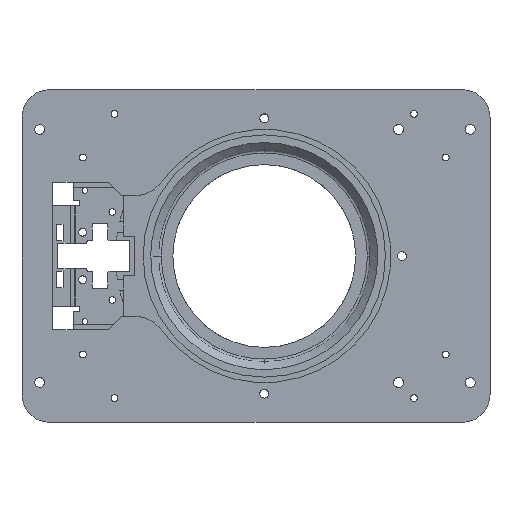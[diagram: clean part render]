
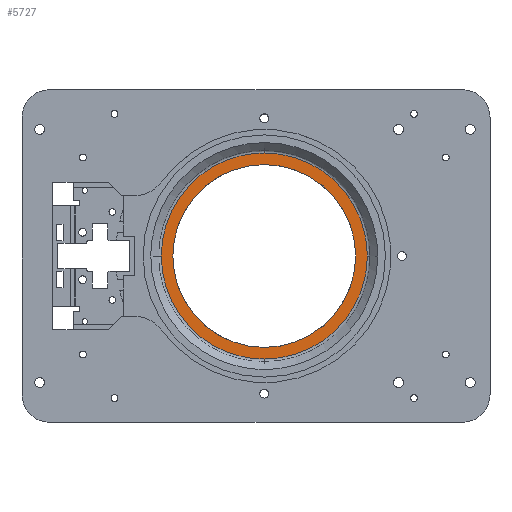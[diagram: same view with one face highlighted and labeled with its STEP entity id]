
A CAD part, top view. The second image highlights one B-rep face of the part: STEP entity #5727.
In plain terms, the highlighted planar face has unit normal (0, 0, 1).
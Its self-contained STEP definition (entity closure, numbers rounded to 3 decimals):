
#5261=DIRECTION('Axis2P3D Direction',(0.,-0.,-1.)) ;
#5270=DIRECTION('Axis2P3D Direction',(0.,-0.,-1.)) ;
#5301=DIRECTION('Axis2P3D Direction',(0.,-0.,-1.)) ;
#5308=DIRECTION('Axis2P3D Direction',(0.,-0.,-1.)) ;
#5638=DIRECTION('Axis2P3D Direction',(0.,-0.,-1.)) ;
#5639=DIRECTION('Axis2P3D XDirection',(1.,0.,0.)) ;
#5260=CARTESIAN_POINT('Axis2P3D Location',(1114.,-720.,99.5)) ;
#5264=CARTESIAN_POINT('Vertex',(1114.,-803.,99.5)) ;
#5266=CARTESIAN_POINT('Vertex',(1197.,-720.,99.5)) ;
#5269=CARTESIAN_POINT('Axis2P3D Location',(1114.,-720.,99.5)) ;
#5273=CARTESIAN_POINT('Vertex',(1114.,-637.,99.5)) ;
#5300=CARTESIAN_POINT('Axis2P3D Location',(1114.,-720.,99.5)) ;
#5304=CARTESIAN_POINT('Vertex',(1031.,-720.,99.5)) ;
#5307=CARTESIAN_POINT('Axis2P3D Location',(1114.,-720.,99.5)) ;
#5598=CARTESIAN_POINT('Vertex',(1020.45,-720.,99.5)) ;
#5602=CARTESIAN_POINT('Control Point',(1020.45,-720.,99.5)) ;
#5603=CARTESIAN_POINT('Control Point',(1020.45,-715.53,99.5)) ;
#5604=CARTESIAN_POINT('Control Point',(1020.717,-711.06,99.5)) ;
#5605=CARTESIAN_POINT('Control Point',(1021.251,-706.612,99.5)) ;
#5606=CARTESIAN_POINT('Control Point',(1023.646,-693.39,99.5)) ;
#5607=CARTESIAN_POINT('Control Point',(1028.375,-680.742,99.5)) ;
#5608=CARTESIAN_POINT('Control Point',(1032.525,-672.73,99.5)) ;
#5609=CARTESIAN_POINT('Control Point',(1042.658,-657.849,99.5)) ;
#5610=CARTESIAN_POINT('Control Point',(1056.007,-645.775,99.5)) ;
#5611=CARTESIAN_POINT('Control Point',(1063.376,-640.565,99.5)) ;
#5612=CARTESIAN_POINT('Control Point',(1077.434,-632.97,99.5)) ;
#5613=CARTESIAN_POINT('Control Point',(1092.736,-628.502,99.5)) ;
#5614=CARTESIAN_POINT('Control Point',(1099.578,-627.177,99.5)) ;
#5615=CARTESIAN_POINT('Control Point',(1106.617,-626.482,99.5)) ;
#5616=CARTESIAN_POINT('Control Point',(1113.661,-626.45,99.5)) ;
#5617=CARTESIAN_POINT('Control Point',(1113.774,-626.45,99.5)) ;
#5618=CARTESIAN_POINT('Control Point',(1113.887,-626.45,99.5)) ;
#5619=CARTESIAN_POINT('Control Point',(1114.,-626.45,99.5)) ;
#5620=CARTESIAN_POINT('Vertex',(1114.,-626.45,99.5)) ;
#5637=CARTESIAN_POINT('Axis2P3D Location',(1114.,-617.,99.5)) ;
#5643=CARTESIAN_POINT('Control Point',(1114.,-626.45,99.5)) ;
#5644=CARTESIAN_POINT('Control Point',(1115.202,-626.45,99.5)) ;
#5645=CARTESIAN_POINT('Control Point',(1116.403,-626.469,99.5)) ;
#5646=CARTESIAN_POINT('Control Point',(1117.606,-626.508,99.5)) ;
#5647=CARTESIAN_POINT('Control Point',(1120.008,-626.624,99.5)) ;
#5648=CARTESIAN_POINT('Control Point',(1122.405,-626.816,99.5)) ;
#5649=CARTESIAN_POINT('Control Point',(1123.602,-626.932,99.5)) ;
#5650=CARTESIAN_POINT('Control Point',(1127.185,-627.337,99.5)) ;
#5651=CARTESIAN_POINT('Control Point',(1130.747,-627.914,99.5)) ;
#5652=CARTESIAN_POINT('Control Point',(1133.108,-628.374,99.5)) ;
#5653=CARTESIAN_POINT('Control Point',(1140.14,-629.983,99.5)) ;
#5654=CARTESIAN_POINT('Control Point',(1146.994,-632.263,99.5)) ;
#5655=CARTESIAN_POINT('Control Point',(1151.459,-634.074,99.5)) ;
#5656=CARTESIAN_POINT('Control Point',(1163.865,-640.062,99.5)) ;
#5657=CARTESIAN_POINT('Control Point',(1175.026,-648.247,99.5)) ;
#5658=CARTESIAN_POINT('Control Point',(1181.612,-654.417,99.5)) ;
#5659=CARTESIAN_POINT('Control Point',(1194.409,-669.667,99.5)) ;
#5660=CARTESIAN_POINT('Control Point',(1202.839,-687.783,99.5)) ;
#5661=CARTESIAN_POINT('Control Point',(1205.98,-698.315,99.5)) ;
#5662=CARTESIAN_POINT('Control Point',(1207.55,-709.158,99.5)) ;
#5663=CARTESIAN_POINT('Control Point',(1207.55,-720.,99.5)) ;
#5664=CARTESIAN_POINT('Vertex',(1207.55,-720.,99.5)) ;
#5668=CARTESIAN_POINT('Control Point',(1020.45,-720.,99.5)) ;
#5669=CARTESIAN_POINT('Control Point',(1020.45,-733.416,99.5)) ;
#5670=CARTESIAN_POINT('Control Point',(1022.855,-746.832,99.5)) ;
#5671=CARTESIAN_POINT('Control Point',(1027.665,-759.662,99.5)) ;
#5672=CARTESIAN_POINT('Control Point',(1039.323,-779.135,99.5)) ;
#5673=CARTESIAN_POINT('Control Point',(1056.007,-794.225,99.5)) ;
#5674=CARTESIAN_POINT('Control Point',(1063.376,-799.435,99.5)) ;
#5675=CARTESIAN_POINT('Control Point',(1074.416,-805.4,99.5)) ;
#5676=CARTESIAN_POINT('Control Point',(1086.223,-809.436,99.5)) ;
#5677=CARTESIAN_POINT('Control Point',(1089.609,-810.418,99.5)) ;
#5678=CARTESIAN_POINT('Control Point',(1094.751,-811.65,99.5)) ;
#5679=CARTESIAN_POINT('Control Point',(1099.962,-812.516,99.5)) ;
#5680=CARTESIAN_POINT('Control Point',(1101.706,-812.764,99.5)) ;
#5681=CARTESIAN_POINT('Control Point',(1104.33,-813.074,99.5)) ;
#5682=CARTESIAN_POINT('Control Point',(1106.962,-813.291,99.5)) ;
#5683=CARTESIAN_POINT('Control Point',(1107.841,-813.354,99.5)) ;
#5684=CARTESIAN_POINT('Control Point',(1109.599,-813.457,99.5)) ;
#5685=CARTESIAN_POINT('Control Point',(1111.359,-813.519,99.5)) ;
#5686=CARTESIAN_POINT('Control Point',(1112.24,-813.54,99.5)) ;
#5687=CARTESIAN_POINT('Control Point',(1113.119,-813.55,99.5)) ;
#5688=CARTESIAN_POINT('Control Point',(1114.,-813.55,99.5)) ;
#5689=CARTESIAN_POINT('Vertex',(1114.,-813.55,99.5)) ;
#5693=CARTESIAN_POINT('Control Point',(1114.,-813.55,99.5)) ;
#5694=CARTESIAN_POINT('Control Point',(1115.202,-813.55,99.5)) ;
#5695=CARTESIAN_POINT('Control Point',(1116.403,-813.531,99.5)) ;
#5696=CARTESIAN_POINT('Control Point',(1117.606,-813.492,99.5)) ;
#5697=CARTESIAN_POINT('Control Point',(1120.008,-813.376,99.5)) ;
#5698=CARTESIAN_POINT('Control Point',(1122.405,-813.184,99.5)) ;
#5699=CARTESIAN_POINT('Control Point',(1123.602,-813.068,99.5)) ;
#5700=CARTESIAN_POINT('Control Point',(1127.185,-812.663,99.5)) ;
#5701=CARTESIAN_POINT('Control Point',(1130.747,-812.086,99.5)) ;
#5702=CARTESIAN_POINT('Control Point',(1133.108,-811.626,99.5)) ;
#5703=CARTESIAN_POINT('Control Point',(1140.14,-810.017,99.5)) ;
#5704=CARTESIAN_POINT('Control Point',(1146.994,-807.737,99.5)) ;
#5705=CARTESIAN_POINT('Control Point',(1151.459,-805.926,99.5)) ;
#5706=CARTESIAN_POINT('Control Point',(1163.865,-799.938,99.5)) ;
#5707=CARTESIAN_POINT('Control Point',(1175.026,-791.753,99.5)) ;
#5708=CARTESIAN_POINT('Control Point',(1181.612,-785.583,99.5)) ;
#5709=CARTESIAN_POINT('Control Point',(1194.409,-770.333,99.5)) ;
#5710=CARTESIAN_POINT('Control Point',(1202.839,-752.217,99.5)) ;
#5711=CARTESIAN_POINT('Control Point',(1205.98,-741.685,99.5)) ;
#5712=CARTESIAN_POINT('Control Point',(1207.55,-730.842,99.5)) ;
#5713=CARTESIAN_POINT('Control Point',(1207.55,-720.,99.5)) ;
#5262=AXIS2_PLACEMENT_3D('Circle Axis2P3D',#5260,#5261,$) ;
#5271=AXIS2_PLACEMENT_3D('Circle Axis2P3D',#5269,#5270,$) ;
#5302=AXIS2_PLACEMENT_3D('Circle Axis2P3D',#5300,#5301,$) ;
#5309=AXIS2_PLACEMENT_3D('Circle Axis2P3D',#5307,#5308,$) ;
#5640=AXIS2_PLACEMENT_3D('Plane Axis2P3D',#5637,#5638,#5639) ;
#5726=FACE_BOUND('',#5721,.T.) ;
#5268=EDGE_CURVE('',#5265,#5267,#5263,.F.) ;
#5275=EDGE_CURVE('',#5274,#5267,#5272,.T.) ;
#5306=EDGE_CURVE('',#5274,#5305,#5303,.F.) ;
#5311=EDGE_CURVE('',#5265,#5305,#5310,.T.) ;
#5622=EDGE_CURVE('',#5621,#5599,#5601,.F.) ;
#5666=EDGE_CURVE('',#5665,#5621,#5642,.F.) ;
#5691=EDGE_CURVE('',#5690,#5599,#5667,.F.) ;
#5714=EDGE_CURVE('',#5665,#5690,#5692,.F.) ;
#5641=PLANE('Plane',#5640) ;
#5716=ORIENTED_EDGE('',*,*,#5666,.T.) ;
#5717=ORIENTED_EDGE('',*,*,#5622,.T.) ;
#5718=ORIENTED_EDGE('',*,*,#5691,.F.) ;
#5719=ORIENTED_EDGE('',*,*,#5714,.F.) ;
#5722=ORIENTED_EDGE('',*,*,#5268,.F.) ;
#5723=ORIENTED_EDGE('',*,*,#5311,.T.) ;
#5724=ORIENTED_EDGE('',*,*,#5306,.F.) ;
#5725=ORIENTED_EDGE('',*,*,#5275,.T.) ;
#5727=ADVANCED_FACE('CNC 20240619',(#5720,#5726),#5641,.F.) ;
#5263=CIRCLE('generated circle',#5262,83.) ;
#5272=CIRCLE('generated circle',#5271,83.) ;
#5303=CIRCLE('generated circle',#5302,83.) ;
#5310=CIRCLE('generated circle',#5309,83.) ;
#5265=VERTEX_POINT('',#5264) ;
#5267=VERTEX_POINT('',#5266) ;
#5274=VERTEX_POINT('',#5273) ;
#5305=VERTEX_POINT('',#5304) ;
#5599=VERTEX_POINT('',#5598) ;
#5621=VERTEX_POINT('',#5620) ;
#5665=VERTEX_POINT('',#5664) ;
#5690=VERTEX_POINT('',#5689) ;
#5601=B_SPLINE_CURVE_WITH_KNOTS('',5,(#5602,#5603,#5604,#5605,#5606,#5607,#5608,#5609,#5610,#5611,#5612,#5613,#5614,#5615,#5616,#5617,#5618,#5619),.UNSPECIFIED.,.F.,.U.,(6,3,3,3,3,6),(399.851,432.407,497.565,562.748,613.228,614.05),.UNSPECIFIED.) ;
#5642=B_SPLINE_CURVE_WITH_KNOTS('',5,(#5643,#5644,#5645,#5646,#5647,#5648,#5649,#5650,#5651,#5652,#5653,#5654,#5655,#5656,#5657,#5658,#5659,#5660,#5661,#5662,#5663),.UNSPECIFIED.,.F.,.U.,(6,3,3,3,3,3,6),(185.657,194.413,203.168,220.68,255.703,320.89,399.857),.UNSPECIFIED.) ;
#5667=B_SPLINE_CURVE_WITH_KNOTS('',5,(#5668,#5669,#5670,#5671,#5672,#5673,#5674,#5675,#5676,#5677,#5678,#5679,#5680,#5681,#5682,#5683,#5684,#5685,#5686,#5687,#5688),.UNSPECIFIED.,.F.,.U.,(6,3,3,3,3,3,6),(399.851,497.565,562.748,588.399,601.224,607.637,614.05),.UNSPECIFIED.) ;
#5692=B_SPLINE_CURVE_WITH_KNOTS('',5,(#5693,#5694,#5695,#5696,#5697,#5698,#5699,#5700,#5701,#5702,#5703,#5704,#5705,#5706,#5707,#5708,#5709,#5710,#5711,#5712,#5713),.UNSPECIFIED.,.F.,.U.,(6,3,3,3,3,3,6),(185.657,194.413,203.168,220.68,255.703,320.89,399.857),.UNSPECIFIED.) ;
#5715=EDGE_LOOP('',(#5716,#5717,#5718,#5719)) ;
#5721=EDGE_LOOP('',(#5722,#5723,#5724,#5725)) ;
#5720=FACE_OUTER_BOUND('',#5715,.T.) ;
